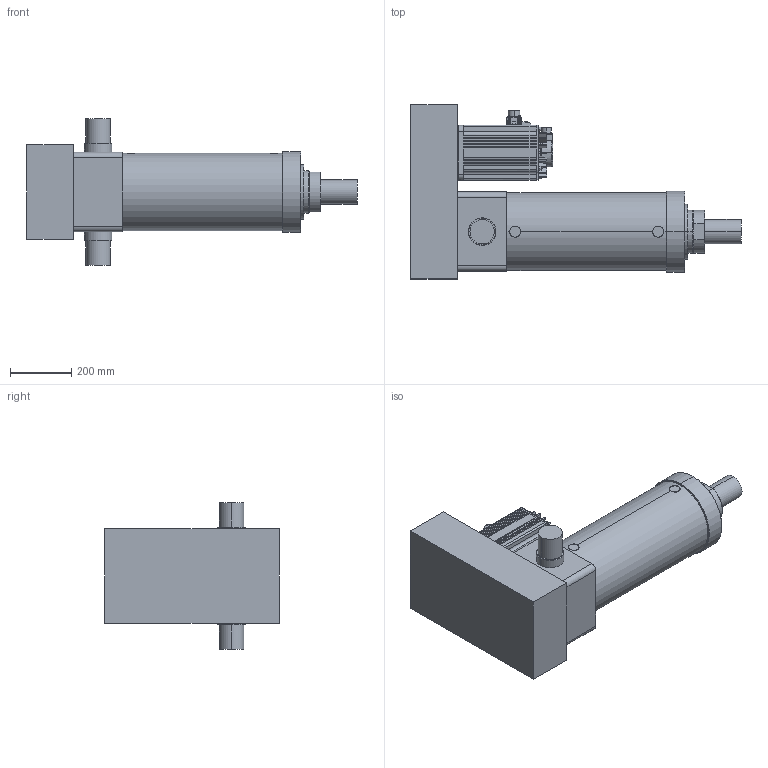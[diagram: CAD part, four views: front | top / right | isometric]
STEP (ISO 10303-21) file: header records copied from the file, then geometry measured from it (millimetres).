
FILE_DESCRIPTION (( 'STEP AP203' ), '1' );
FILE_NAME ('S9殏殿嫉粣假蚾.STEP', '2024-05-27T05:41:09', ( '' ), ( '' ), 'SwSTEP 2.0', 'SolidWorks 2018', '' );
FILE_SCHEMA (( 'CONFIG_CONTROL_DESIGN' ));
Length unit declared in the file: millimetre
Products named in the file (3): S9殏殿嫉粣假蚾; ECMA-LX1855S3-180框號系列機種-5.5KW-400V高慣量系列; S9殏殿嫉粣
Assembly tree (2 placements, depth 2):
  S9殏殿嫉粣假蚾
    S9殏殿嫉粣
    ECMA-LX1855S3-180框號系列機種-5.5KW-400V高慣量系列
Bounding box: 1082 x 570 x 480 mm (x, y, z)
Volume: 74608607.6 mm3; surface area: 1925248.5 mm2
Topology: 2 solids, 5 shells, 724 faces, 1668 edges, 1023 vertices
Faces by surface type: plane 357, cylinder 260, cone 56, bspline 31, torus 20
Entity records: 22982 total; most frequent: CARTESIAN_POINT 6565, ORIENTED_EDGE 3332, DIRECTION 3300, EDGE_CURVE 1666, AXIS2_PLACEMENT_3D 1191, VERTEX_POINT 1023, VECTOR 918, LINE 918
